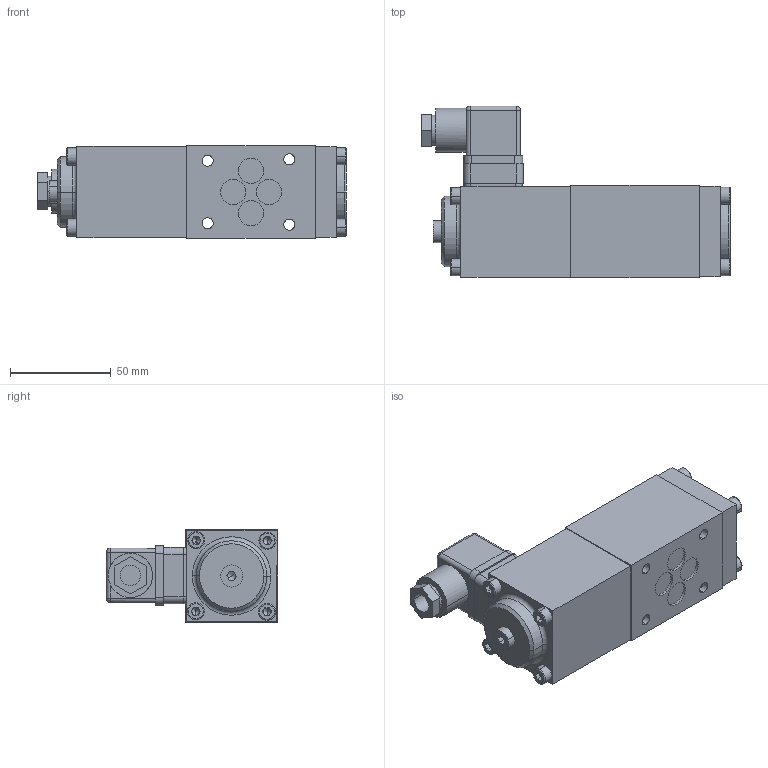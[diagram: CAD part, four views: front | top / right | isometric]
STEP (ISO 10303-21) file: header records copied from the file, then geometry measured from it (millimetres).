
FILE_DESCRIPTION (( 'STEP AP214' ), '1' );
FILE_NAME ('A.32061a.STEP', '2017-03-17T13:39:31', ( '' ), ( '' ), 'SwSTEP 2.0', 'SolidWorks 2016', '' );
FILE_SCHEMA (( 'AUTOMOTIVE_DESIGN' ));
Length unit declared in the file: millimetre
Products named in the file (1): A.32061a
Bounding box: 153.25 x 85.37 x 46 mm (x, y, z)
Volume: 304208.9 mm3; surface area: 57879.1 mm2
Topology: 10 solids, 14 shells, 749 faces, 1851 edges, 1160 vertices
Faces by surface type: plane 409, cylinder 217, cone 77, torus 34, bspline 12
Entity records: 31453 total; most frequent: CARTESIAN_POINT 5184, DIRECTION 3788, ORIENTED_EDGE 3618, EDGE_CURVE 1809, AXIS2_PLACEMENT_3D 1330, VERTEX_POINT 1160, VECTOR 1128, LINE 1128
